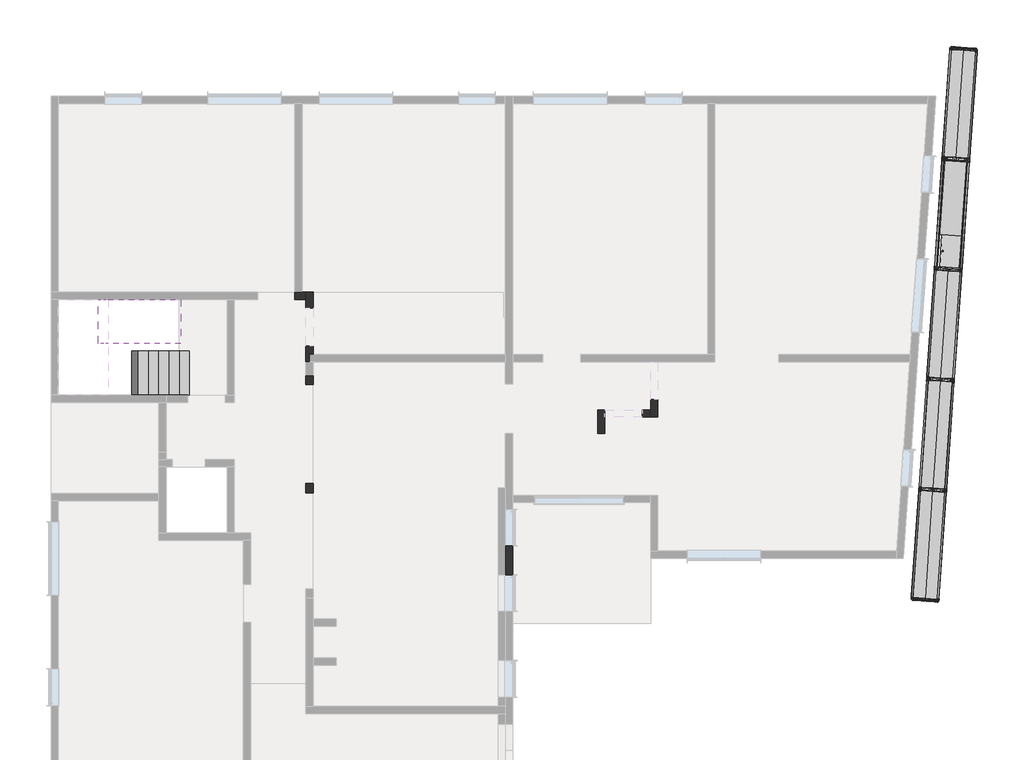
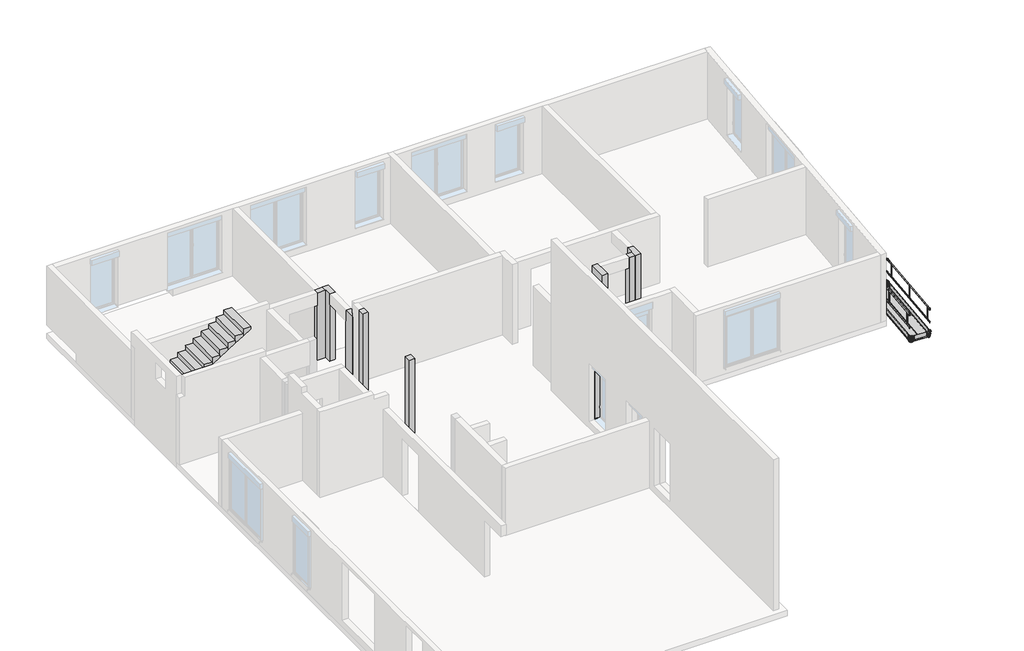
# One storey, part 3 of 3: 55 proxies, 9 columns, 2 stair flights.
"""IFC4 building model written with IfcOpenShell, lengths in millimetres."""

from ifc_helpers import new_model, si_unit, origin, place, context, project, spatial, faceted_brep, transform, mapped, element, save
from components import generic_models_b6224320, generic_models_870fb608, generic_models_6026e95e, generic_models_c9bf4d4e, generic_models_8fe25d63, proxy_03_lisse_70_0da8a22d, proxy_04_lisse_3_m_913477d2

model = new_model("IFC4")

# Units and contexts
model_context = context("Model", 3, world=origin())
ifc_project = project(units=[si_unit("LENGTHUNIT", "METRE", prefix="MILLI")], contexts=[model_context])

# Site, building, storey
site = spatial("IfcSite", under=ifc_project)
building = spatial("IfcBuilding", under=site)
storey = spatial("IfcBuildingStorey", under=building, Name="07-Plateau 7", Elevation=12400.0)

# Proxies
placement = place(None, origin())
generic_models_shape = generic_models_b6224320(model_context)
element("IfcBuildingElementProxy", 1, Name="05-Plateau 3.00 m : JPA Plateau Galva", ObjectType="05-Plateau 3.00 m : JPA Plateau Galva", at=placement, inside=storey, context=model_context, shape_type="MappedRepresentation", body=[
    mapped(generic_models_shape, transform((17696.6144519, 11330.0091436, 12400.0), x_axis=(0.06975647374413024, 0.997564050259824, 0.0), y_axis=(-0.997564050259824, 0.06975647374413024, 0.0), z_axis=(0.0, 0.0, 1.0))),
])
element("IfcBuildingElementProxy", 2, Name="05-Plateau 3.00 m : JPA Plateau Galva", ObjectType="05-Plateau 3.00 m : JPA Plateau Galva", at=placement, inside=storey, context=model_context, shape_type="MappedRepresentation", body=[
    mapped(generic_models_shape, transform((18015.8349479, 11307.687072, 12400.0), x_axis=(0.06975647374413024, 0.997564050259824, 0.0), y_axis=(-0.997564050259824, 0.06975647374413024, 0.0), z_axis=(0.0, 0.0, 1.0))),
])
element("IfcBuildingElementProxy", 3, Name="05-Plateau 3.00 m : JPA Plateau Galva", ObjectType="05-Plateau 3.00 m : JPA Plateau Galva", at=placement, inside=storey, context=model_context, shape_type="MappedRepresentation", body=[
    mapped(generic_models_shape, transform((17487.1106496, 8333.9651875, 12400.0), x_axis=(0.06975647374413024, 0.997564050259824, 0.0), y_axis=(-0.997564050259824, 0.06975647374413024, 0.0), z_axis=(0.0, 0.0, 1.0))),
])
element("IfcBuildingElementProxy", 4, Name="05-Plateau 3.00 m : JPA Plateau Galva", ObjectType="05-Plateau 3.00 m : JPA Plateau Galva", at=placement, inside=storey, context=model_context, shape_type="MappedRepresentation", body=[
    mapped(generic_models_shape, transform((17806.3311456, 8311.6431159, 12400.0), x_axis=(0.06975647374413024, 0.997564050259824, 0.0), y_axis=(-0.997564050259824, 0.06975647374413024, 0.0), z_axis=(0.0, 0.0, 1.0))),
])
element("IfcBuildingElementProxy", 5, Name="05-Plateau 3.00 m : JPA Plateau Galva", ObjectType="05-Plateau 3.00 m : JPA Plateau Galva", at=placement, inside=storey, context=model_context, shape_type="MappedRepresentation", body=[
    mapped(generic_models_shape, transform((17277.6068473, 5337.9212313, 12400.0), x_axis=(0.06975647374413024, 0.997564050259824, 0.0), y_axis=(-0.997564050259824, 0.06975647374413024, 0.0), z_axis=(0.0, 0.0, 1.0))),
])
element("IfcBuildingElementProxy", 6, Name="05-Plateau 3.00 m : JPA Plateau Galva", ObjectType="05-Plateau 3.00 m : JPA Plateau Galva", at=placement, inside=storey, context=model_context, shape_type="MappedRepresentation", body=[
    mapped(generic_models_shape, transform((17596.8273433, 5315.5991597, 12400.0), x_axis=(0.06975647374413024, 0.997564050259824, 0.0), y_axis=(-0.997564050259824, 0.06975647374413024, 0.0), z_axis=(0.0, 0.0, 1.0))),
])
element("IfcBuildingElementProxy", 7, Name="05-Plateau 3.00 m : JPA Plateau Galva", ObjectType="05-Plateau 3.00 m : JPA Plateau Galva", at=placement, inside=storey, context=model_context, shape_type="MappedRepresentation", body=[
    mapped(generic_models_shape, transform((18115.6220564, 17322.0970558, 12400.0), x_axis=(0.06975647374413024, 0.997564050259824, 0.0), y_axis=(-0.997564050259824, 0.06975647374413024, 0.0), z_axis=(0.0, 0.0, 1.0))),
])
element("IfcBuildingElementProxy", 8, Name="05-Plateau 3.00 m : JPA Plateau Galva", ObjectType="05-Plateau 3.00 m : JPA Plateau Galva", at=placement, inside=storey, context=model_context, shape_type="MappedRepresentation", body=[
    mapped(generic_models_shape, transform((18434.8425525, 17299.7749842, 12400.0), x_axis=(0.06975647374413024, 0.997564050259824, 0.0), y_axis=(-0.997564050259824, 0.06975647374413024, 0.0), z_axis=(0.0, 0.0, 1.0))),
])
generic_models_2_shape = generic_models_870fb608(model_context)
element("IfcBuildingElementProxy", 9, Name="07-Plancher trappe : JPA Plancher trappe", ObjectType="07-Plancher trappe : JPA Plancher trappe", at=placement, inside=storey, context=model_context, shape_type="MappedRepresentation", body=[
    mapped(generic_models_2_shape, transform((18603.7155246, 14267.2479276, 12400.0), x_axis=(0.06975647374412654, 0.9975640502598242, 0.0), y_axis=(-0.9975640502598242, 0.06975647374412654, 0.0), z_axis=(0.0, 0.0, 1.0))),
])
generic_models_3_shape = generic_models_6026e95e(model_context)
element("IfcBuildingElementProxy", 10, Name="11-Plinthe 0.70 : JPA Plinthe 0.70", ObjectType="11-Plinthe 0.70 : JPA Plinthe 0.70", at=placement, inside=storey, context=model_context, shape_type="MappedRepresentation", body=[
    mapped(generic_models_3_shape, transform((17293.9283677, 5332.6495195, 12400.0), x_axis=(0.9970739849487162, -0.07644258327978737, 0.0), y_axis=(0.07644258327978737, 0.9970739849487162, 0.0), z_axis=(0.0, 0.0, 1.0))),
])
element("IfcBuildingElementProxy", 11, Name="11-Plinthe 0.70 : JPA Plinthe 0.70", ObjectType="11-Plinthe 0.70 : JPA Plinthe 0.70", at=placement, inside=storey, context=model_context, shape_type="MappedRepresentation", body=[
    mapped(generic_models_3_shape, transform((18342.1895888, 20323.4833915, 12400.0), x_axis=(0.9970739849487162, -0.07644258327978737, 0.0), y_axis=(0.07644258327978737, 0.9970739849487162, 0.0), z_axis=(0.0, 0.0, 1.0))),
])
generic_models_4_shape = generic_models_c9bf4d4e(model_context)
element("IfcBuildingElementProxy", 12, Name="12-Plinthe 3 m : JPA Plinthe 3 m", ObjectType="12-Plinthe 3 m : JPA Plinthe 3 m", at=placement, inside=storey, context=model_context, shape_type="MappedRepresentation", body=[
    mapped(generic_models_4_shape, transform((17696.788843, 11332.5030537, 12400.0), x_axis=(0.06975647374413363, 0.9975640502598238, 0.0), y_axis=(-0.9975640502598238, 0.06975647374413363, 0.0), z_axis=(0.0, 0.0, 1.0))),
])
element("IfcBuildingElementProxy", 13, Name="12-Plinthe 3 m : JPA Plinthe 3 m", ObjectType="12-Plinthe 3 m : JPA Plinthe 3 m", at=placement, inside=storey, context=model_context, shape_type="MappedRepresentation", body=[
    mapped(generic_models_4_shape, transform((18395.0836782, 11283.6735221, 12400.0), x_axis=(0.06975647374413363, 0.9975640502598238, 0.0), y_axis=(-0.9975640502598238, 0.06975647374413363, 0.0), z_axis=(0.0, 0.0, 1.0))),
])
element("IfcBuildingElementProxy", 14, Name="12-Plinthe 3 m : JPA Plinthe 3 m", ObjectType="12-Plinthe 3 m : JPA Plinthe 3 m", at=placement, inside=storey, context=model_context, shape_type="MappedRepresentation", body=[
    mapped(generic_models_4_shape, transform((17906.2926453, 14328.5470098, 12400.0), x_axis=(0.06975647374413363, 0.9975640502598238, 0.0), y_axis=(-0.9975640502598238, 0.06975647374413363, 0.0), z_axis=(0.0, 0.0, 1.0))),
])
element("IfcBuildingElementProxy", 15, Name="12-Plinthe 3 m : JPA Plinthe 3 m", ObjectType="12-Plinthe 3 m : JPA Plinthe 3 m", at=placement, inside=storey, context=model_context, shape_type="MappedRepresentation", body=[
    mapped(generic_models_4_shape, transform((18604.5874805, 14279.7174782, 12400.0), x_axis=(0.06975647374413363, 0.9975640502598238, 0.0), y_axis=(-0.9975640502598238, 0.06975647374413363, 0.0), z_axis=(0.0, 0.0, 1.0))),
])
element("IfcBuildingElementProxy", 16, Name="12-Plinthe 3 m : JPA Plinthe 3 m", ObjectType="12-Plinthe 3 m : JPA Plinthe 3 m", at=placement, inside=storey, context=model_context, shape_type="MappedRepresentation", body=[
    mapped(generic_models_4_shape, transform((18115.7964476, 17324.590966, 12400.0), x_axis=(0.06975647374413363, 0.9975640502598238, 0.0), y_axis=(-0.9975640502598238, 0.06975647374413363, 0.0), z_axis=(0.0, 0.0, 1.0))),
])
element("IfcBuildingElementProxy", 17, Name="12-Plinthe 3 m : JPA Plinthe 3 m", ObjectType="12-Plinthe 3 m : JPA Plinthe 3 m", at=placement, inside=storey, context=model_context, shape_type="MappedRepresentation", body=[
    mapped(generic_models_4_shape, transform((18814.0912828, 17275.7614343, 12400.0), x_axis=(0.06975647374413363, 0.9975640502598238, 0.0), y_axis=(-0.9975640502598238, 0.06975647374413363, 0.0), z_axis=(0.0, 0.0, 1.0))),
])
element("IfcBuildingElementProxy", 18, Name="12-Plinthe 3 m : JPA Plinthe 3 m", ObjectType="12-Plinthe 3 m : JPA Plinthe 3 m", at=placement, inside=storey, context=model_context, shape_type="MappedRepresentation", body=[
    mapped(generic_models_4_shape, transform((17487.2850407, 8336.4590976, 12400.0), x_axis=(0.06975647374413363, 0.9975640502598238, 0.0), y_axis=(-0.9975640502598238, 0.06975647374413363, 0.0), z_axis=(0.0, 0.0, 1.0))),
])
element("IfcBuildingElementProxy", 19, Name="12-Plinthe 3 m : JPA Plinthe 3 m", ObjectType="12-Plinthe 3 m : JPA Plinthe 3 m", at=placement, inside=storey, context=model_context, shape_type="MappedRepresentation", body=[
    mapped(generic_models_4_shape, transform((18185.5798759, 8287.629566, 12400.0), x_axis=(0.06975647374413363, 0.9975640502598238, 0.0), y_axis=(-0.9975640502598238, 0.06975647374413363, 0.0), z_axis=(0.0, 0.0, 1.0))),
])
element("IfcBuildingElementProxy", 20, Name="12-Plinthe 3 m : JPA Plinthe 3 m", ObjectType="12-Plinthe 3 m : JPA Plinthe 3 m", at=placement, inside=storey, context=model_context, shape_type="MappedRepresentation", body=[
    mapped(generic_models_4_shape, transform((17277.7812384, 5340.4151415, 12400.0), x_axis=(0.06975647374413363, 0.9975640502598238, 0.0), y_axis=(-0.9975640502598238, 0.06975647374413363, 0.0), z_axis=(0.0, 0.0, 1.0))),
])
element("IfcBuildingElementProxy", 21, Name="12-Plinthe 3 m : JPA Plinthe 3 m", ObjectType="12-Plinthe 3 m : JPA Plinthe 3 m", at=placement, inside=storey, context=model_context, shape_type="MappedRepresentation", body=[
    mapped(generic_models_4_shape, transform((17976.0760736, 5291.5856098, 12400.0), x_axis=(0.06975647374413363, 0.9975640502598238, 0.0), y_axis=(-0.9975640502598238, 0.06975647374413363, 0.0), z_axis=(0.0, 0.0, 1.0))),
])
generic_models_5_shape = generic_models_8fe25d63(model_context)
element("IfcBuildingElementProxy", 22, Name="14-Garde corps 300 : JPA Garde corps 300", ObjectType="14-Garde corps 300 : JPA Garde corps 300", at=placement, inside=storey, context=model_context, shape_type="MappedRepresentation", body=[
    mapped(generic_models_5_shape, transform((17696.7673576, 11331.7493383, 12400.0), x_axis=(0.06975647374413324, 0.9975640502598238, 0.0), y_axis=(-0.9975640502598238, 0.06975647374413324, 0.0), z_axis=(0.0, 0.0, 1.0))),
])
element("IfcBuildingElementProxy", 23, Name="14-Garde corps 300 : JPA Garde corps 300", ObjectType="14-Garde corps 300 : JPA Garde corps 300", at=placement, inside=storey, context=model_context, shape_type="MappedRepresentation", body=[
    mapped(generic_models_5_shape, transform((17906.2711598, 14327.7932944, 12400.0), x_axis=(0.06975647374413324, 0.9975640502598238, 0.0), y_axis=(-0.9975640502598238, 0.06975647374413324, 0.0), z_axis=(0.0, 0.0, 1.0))),
])
element("IfcBuildingElementProxy", 24, Name="14-Garde corps 300 : JPA Garde corps 300", ObjectType="14-Garde corps 300 : JPA Garde corps 300", at=placement, inside=storey, context=model_context, shape_type="MappedRepresentation", body=[
    mapped(generic_models_5_shape, transform((18115.7749621, 17323.8372506, 12400.0), x_axis=(0.06975647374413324, 0.9975640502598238, 0.0), y_axis=(-0.9975640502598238, 0.06975647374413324, 0.0), z_axis=(0.0, 0.0, 1.0))),
])
element("IfcBuildingElementProxy", 25, Name="14-Garde corps 300 : JPA Garde corps 300", ObjectType="14-Garde corps 300 : JPA Garde corps 300", at=placement, inside=storey, context=model_context, shape_type="MappedRepresentation", body=[
    mapped(generic_models_5_shape, transform((17487.2635553, 8335.7053822, 12400.0), x_axis=(0.06975647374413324, 0.9975640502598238, 0.0), y_axis=(-0.9975640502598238, 0.06975647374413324, 0.0), z_axis=(0.0, 0.0, 1.0))),
])
element("IfcBuildingElementProxy", 26, Name="14-Garde corps 300 : JPA Garde corps 300", ObjectType="14-Garde corps 300 : JPA Garde corps 300", at=placement, inside=storey, context=model_context, shape_type="MappedRepresentation", body=[
    mapped(generic_models_5_shape, transform((18814.2002275, 17273.8372506, 12400.0), x_axis=(0.06975647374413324, 0.9975640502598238, 0.0), y_axis=(-0.9975640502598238, 0.06975647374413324, 0.0), z_axis=(0.0, 0.0, 1.0))),
])
element("IfcBuildingElementProxy", 27, Name="14-Garde corps 300 : JPA Garde corps 300", ObjectType="14-Garde corps 300 : JPA Garde corps 300", at=placement, inside=storey, context=model_context, shape_type="MappedRepresentation", body=[
    mapped(generic_models_5_shape, transform((18604.2002275, 14273.8372506, 12400.0), x_axis=(0.06975647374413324, 0.9975640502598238, 0.0), y_axis=(-0.9975640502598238, 0.06975647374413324, 0.0), z_axis=(0.0, 0.0, 1.0))),
])
element("IfcBuildingElementProxy", 28, Name="14-Garde corps 300 : JPA Garde corps 300", ObjectType="14-Garde corps 300 : JPA Garde corps 300", at=placement, inside=storey, context=model_context, shape_type="MappedRepresentation", body=[
    mapped(generic_models_5_shape, transform((18394.9308063, 11281.1450998, 12400.0), x_axis=(0.06975647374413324, 0.9975640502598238, 0.0), y_axis=(-0.9975640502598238, 0.06975647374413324, 0.0), z_axis=(0.0, 0.0, 1.0))),
])
element("IfcBuildingElementProxy", 29, Name="14-Garde corps 300 : JPA Garde corps 300", ObjectType="14-Garde corps 300 : JPA Garde corps 300", at=placement, inside=storey, context=model_context, shape_type="MappedRepresentation", body=[
    mapped(generic_models_5_shape, transform((18185.427004, 8285.1011437, 12400.0), x_axis=(0.06975647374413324, 0.9975640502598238, 0.0), y_axis=(-0.9975640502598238, 0.06975647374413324, 0.0), z_axis=(0.0, 0.0, 1.0))),
])
element("IfcBuildingElementProxy", 30, Name="14-Garde corps 300 : JPA Garde corps 300", ObjectType="14-Garde corps 300 : JPA Garde corps 300", at=placement, inside=storey, context=model_context, shape_type="MappedRepresentation", body=[
    mapped(generic_models_5_shape, transform((17277.759753, 5339.6614261, 12400.0), x_axis=(0.06975647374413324, 0.9975640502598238, 0.0), y_axis=(-0.9975640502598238, 0.06975647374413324, 0.0), z_axis=(0.0, 0.0, 1.0))),
])
element("IfcBuildingElementProxy", 31, Name="14-Garde corps 300 : JPA Garde corps 300", ObjectType="14-Garde corps 300 : JPA Garde corps 300", at=placement, inside=storey, context=model_context, shape_type="MappedRepresentation", body=[
    mapped(generic_models_5_shape, transform((17975.9232017, 5289.0571875, 12400.0), x_axis=(0.06975647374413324, 0.9975640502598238, 0.0), y_axis=(-0.9975640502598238, 0.06975647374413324, 0.0), z_axis=(0.0, 0.0, 1.0))),
])
proxy_03_lisse_70_shape = proxy_03_lisse_70_0da8a22d(model_context)
element("IfcBuildingElementProxy", 32, Name="03-Lisse 70 : JPA Lisse Galva", ObjectType="03-Lisse 70 : JPA Lisse Galva", at=placement, inside=storey, context=model_context, shape_type="MappedRepresentation", body=[
    mapped(proxy_03_lisse_70_shape, transform((17687.6637048, 11325.7592688, 12400.0), x_axis=(0.9975640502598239, -0.06975647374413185, 0.0), y_axis=(0.06975647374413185, 0.9975640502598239, 0.0), z_axis=(0.0, 0.0, 1.0))),
])
element("IfcBuildingElementProxy", 33, Name="03-Lisse 70 : JPA Lisse Galva", ObjectType="03-Lisse 70 : JPA Lisse Galva", at=placement, inside=storey, context=model_context, shape_type="MappedRepresentation", body=[
    mapped(proxy_03_lisse_70_shape, transform((17897.1675071, 14321.8032249, 12400.0), x_axis=(0.9975640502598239, -0.06975647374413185, 0.0), y_axis=(0.06975647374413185, 0.9975640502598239, 0.0), z_axis=(0.0, 0.0, 1.0))),
])
element("IfcBuildingElementProxy", 34, Name="03-Lisse 70 : JPA Lisse Galva", ObjectType="03-Lisse 70 : JPA Lisse Galva", at=placement, inside=storey, context=model_context, shape_type="MappedRepresentation", body=[
    mapped(proxy_03_lisse_70_shape, transform((18106.6713094, 17317.847181, 12400.0), x_axis=(0.9975640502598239, -0.06975647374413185, 0.0), y_axis=(0.06975647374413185, 0.9975640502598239, 0.0), z_axis=(0.0, 0.0, 1.0))),
])
element("IfcBuildingElementProxy", 35, Name="03-Lisse 70 : JPA Lisse Galva", ObjectType="03-Lisse 70 : JPA Lisse Galva", at=placement, inside=storey, context=model_context, shape_type="MappedRepresentation", body=[
    mapped(proxy_03_lisse_70_shape, transform((18311.1751117, 20323.8911372, 12400.0), x_axis=(0.9975640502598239, -0.06975647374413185, 0.0), y_axis=(0.06975647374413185, 0.9975640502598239, 0.0), z_axis=(0.0, 0.0, 1.0))),
])
element("IfcBuildingElementProxy", 36, Name="03-Lisse 70 : JPA Lisse Galva", ObjectType="03-Lisse 70 : JPA Lisse Galva", at=placement, inside=storey, context=model_context, shape_type="MappedRepresentation", body=[
    mapped(proxy_03_lisse_70_shape, transform((17478.1599025, 8329.7153127, 12400.0), x_axis=(0.9975640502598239, -0.06975647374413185, 0.0), y_axis=(0.06975647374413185, 0.9975640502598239, 0.0), z_axis=(0.0, 0.0, 1.0))),
])
element("IfcBuildingElementProxy", 37, Name="03-Lisse 70 : JPA Lisse Galva", ObjectType="03-Lisse 70 : JPA Lisse Galva", at=placement, inside=storey, context=model_context, shape_type="MappedRepresentation", body=[
    mapped(proxy_03_lisse_70_shape, transform((17478.1599025, 8329.7153127, 12400.0), x_axis=(0.9975640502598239, -0.06975647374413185, 0.0), y_axis=(0.06975647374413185, 0.9975640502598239, 0.0), z_axis=(0.0, 0.0, 1.0))),
])
element("IfcBuildingElementProxy", 38, Name="03-Lisse 70 : JPA Lisse Galva", ObjectType="03-Lisse 70 : JPA Lisse Galva", at=placement, inside=storey, context=model_context, shape_type="MappedRepresentation", body=[
    mapped(proxy_03_lisse_70_shape, transform((17268.6561002, 5333.6713565, 12400.0), x_axis=(0.9975640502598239, -0.06975647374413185, 0.0), y_axis=(0.06975647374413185, 0.9975640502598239, 0.0), z_axis=(0.0, 0.0, 1.0))),
])
proxy_04_lisse_3_m_shape = proxy_04_lisse_3_m_913477d2(model_context)
element("IfcBuildingElementProxy", 39, Name="04-Lisse 3 m : JPA Lisse Galva", ObjectType="04-Lisse 3 m : JPA Lisse Galva", at=placement, inside=storey, context=model_context, shape_type="MappedRepresentation", body=[
    mapped(proxy_04_lisse_3_m_shape, transform((18185.5798759, 8287.629566, 12400.0), x_axis=(0.06975647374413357, 0.9975640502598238, 0.0), y_axis=(-0.9975640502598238, 0.06975647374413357, 0.0), z_axis=(0.0, 0.0, 1.0))),
])
element("IfcBuildingElementProxy", 40, Name="04-Lisse 3 m : JPA Lisse Galva", ObjectType="04-Lisse 3 m : JPA Lisse Galva", at=placement, inside=storey, context=model_context, shape_type="MappedRepresentation", body=[
    mapped(proxy_04_lisse_3_m_shape, transform((18394.2117223, 11271.2039715, 12400.0), x_axis=(0.06975647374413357, 0.9975640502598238, 0.0), y_axis=(-0.9975640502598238, 0.06975647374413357, 0.0), z_axis=(0.0, 0.0, 1.0))),
])
element("IfcBuildingElementProxy", 41, Name="04-Lisse 3 m : JPA Lisse Galva", ObjectType="04-Lisse 3 m : JPA Lisse Galva", at=placement, inside=storey, context=model_context, shape_type="MappedRepresentation", body=[
    mapped(proxy_04_lisse_3_m_shape, transform((18604.1764114, 14273.838916, 12400.0), x_axis=(0.06975647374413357, 0.9975640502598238, 0.0), y_axis=(-0.9975640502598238, 0.06975647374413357, 0.0), z_axis=(0.0, 0.0, 1.0))),
])
element("IfcBuildingElementProxy", 42, Name="04-Lisse 3 m : JPA Lisse Galva", ObjectType="04-Lisse 3 m : JPA Lisse Galva", at=placement, inside=storey, context=model_context, shape_type="MappedRepresentation", body=[
    mapped(proxy_04_lisse_3_m_shape, transform((18813.5502996, 17268.0250134, 12400.0), x_axis=(0.06975647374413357, 0.9975640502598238, 0.0), y_axis=(-0.9975640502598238, 0.06975647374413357, 0.0), z_axis=(0.0, 0.0, 1.0))),
])
element("IfcBuildingElementProxy", 43, Name="04-Lisse 3 m : JPA Lisse Galva", ObjectType="04-Lisse 3 m : JPA Lisse Galva", at=placement, inside=storey, context=model_context, shape_type="MappedRepresentation", body=[
    mapped(proxy_04_lisse_3_m_shape, transform((17976.0760736, 5291.5856098, 12400.0), x_axis=(0.06975647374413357, 0.9975640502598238, 0.0), y_axis=(-0.9975640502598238, 0.06975647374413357, 0.0), z_axis=(0.0, 0.0, 1.0))),
])
element("IfcBuildingElementProxy", 44, Name="04-Lisse 3 m : JPA Lisse Galva", ObjectType="04-Lisse 3 m : JPA Lisse Galva", at=placement, inside=storey, context=model_context, shape_type="MappedRepresentation", body=[
    mapped(proxy_04_lisse_3_m_shape, transform((17487.2850407, 8336.4590976, 12400.0), x_axis=(0.06975647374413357, 0.9975640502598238, 0.0), y_axis=(-0.9975640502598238, 0.06975647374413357, 0.0), z_axis=(0.0, 0.0, 1.0))),
])
element("IfcBuildingElementProxy", 45, Name="04-Lisse 3 m : JPA Lisse Galva", ObjectType="04-Lisse 3 m : JPA Lisse Galva", at=placement, inside=storey, context=model_context, shape_type="MappedRepresentation", body=[
    mapped(proxy_04_lisse_3_m_shape, transform((17695.9168871, 11320.0335031, 12400.0), x_axis=(0.06975647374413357, 0.9975640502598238, 0.0), y_axis=(-0.9975640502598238, 0.06975647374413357, 0.0), z_axis=(0.0, 0.0, 1.0))),
])
element("IfcBuildingElementProxy", 46, Name="04-Lisse 3 m : JPA Lisse Galva", ObjectType="04-Lisse 3 m : JPA Lisse Galva", at=placement, inside=storey, context=model_context, shape_type="MappedRepresentation", body=[
    mapped(proxy_04_lisse_3_m_shape, transform((17905.8815762, 14322.6684476, 12400.0), x_axis=(0.06975647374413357, 0.9975640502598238, 0.0), y_axis=(-0.9975640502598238, 0.06975647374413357, 0.0), z_axis=(0.0, 0.0, 1.0))),
])
element("IfcBuildingElementProxy", 47, Name="04-Lisse 3 m : JPA Lisse Galva", ObjectType="04-Lisse 3 m : JPA Lisse Galva", at=placement, inside=storey, context=model_context, shape_type="MappedRepresentation", body=[
    mapped(proxy_04_lisse_3_m_shape, transform((18115.2554644, 17316.8545451, 12400.0), x_axis=(0.06975647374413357, 0.9975640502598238, 0.0), y_axis=(-0.9975640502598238, 0.06975647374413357, 0.0), z_axis=(0.0, 0.0, 1.0))),
])
element("IfcBuildingElementProxy", 48, Name="04-Lisse 3 m : JPA Lisse Galva", ObjectType="04-Lisse 3 m : JPA Lisse Galva", at=placement, inside=storey, context=model_context, shape_type="MappedRepresentation", body=[
    mapped(proxy_04_lisse_3_m_shape, transform((17277.7812384, 5340.4151415, 12400.0), x_axis=(0.06975647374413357, 0.9975640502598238, 0.0), y_axis=(-0.9975640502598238, 0.06975647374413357, 0.0), z_axis=(0.0, 0.0, 1.0))),
])
element("IfcBuildingElementProxy", 49, Name="04-Lisse 3 m : JPA Lisse Galva", ObjectType="04-Lisse 3 m : JPA Lisse Galva", at=placement, inside=storey, context=model_context, shape_type="MappedRepresentation", body=[
    mapped(proxy_04_lisse_3_m_shape, transform((17500.8765554, 8353.1677495, 12400.0), x_axis=(0.06975647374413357, 0.9975640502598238, 0.0), y_axis=(-0.9975640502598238, 0.06975647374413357, 0.0), z_axis=(0.0, 0.0, 1.0))),
])
element("IfcBuildingElementProxy", 50, Name="04-Lisse 3 m : JPA Lisse Galva", ObjectType="04-Lisse 3 m : JPA Lisse Galva", at=placement, inside=storey, context=model_context, shape_type="MappedRepresentation", body=[
    mapped(proxy_04_lisse_3_m_shape, transform((17709.5084018, 11336.742155, 12400.0), x_axis=(0.06975647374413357, 0.9975640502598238, 0.0), y_axis=(-0.9975640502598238, 0.06975647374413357, 0.0), z_axis=(0.0, 0.0, 1.0))),
])
element("IfcBuildingElementProxy", 51, Name="04-Lisse 3 m : JPA Lisse Galva", ObjectType="04-Lisse 3 m : JPA Lisse Galva", at=placement, inside=storey, context=model_context, shape_type="MappedRepresentation", body=[
    mapped(proxy_04_lisse_3_m_shape, transform((17919.4730909, 14339.3770995, 12400.0), x_axis=(0.06975647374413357, 0.9975640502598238, 0.0), y_axis=(-0.9975640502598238, 0.06975647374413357, 0.0), z_axis=(0.0, 0.0, 1.0))),
])
element("IfcBuildingElementProxy", 52, Name="04-Lisse 3 m : JPA Lisse Galva", ObjectType="04-Lisse 3 m : JPA Lisse Galva", at=placement, inside=storey, context=model_context, shape_type="MappedRepresentation", body=[
    mapped(proxy_04_lisse_3_m_shape, transform((18128.846979, 17333.563197, 12400.0), x_axis=(0.06975647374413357, 0.9975640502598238, 0.0), y_axis=(-0.9975640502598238, 0.06975647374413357, 0.0), z_axis=(0.0, 0.0, 1.0))),
])
element("IfcBuildingElementProxy", 53, Name="04-Lisse 3 m : JPA Lisse Galva", ObjectType="04-Lisse 3 m : JPA Lisse Galva", at=placement, inside=storey, context=model_context, shape_type="MappedRepresentation", body=[
    mapped(proxy_04_lisse_3_m_shape, transform((17291.3727531, 5357.1237934, 12400.0), x_axis=(0.06975647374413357, 0.9975640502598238, 0.0), y_axis=(-0.9975640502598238, 0.06975647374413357, 0.0), z_axis=(0.0, 0.0, 1.0))),
])
element("IfcBuildingElementProxy", 54, Name="04-Lisse 3 m : JPA Lisse Galva", ObjectType="04-Lisse 3 m : JPA Lisse Galva", at=placement, inside=storey, context=model_context, shape_type="MappedRepresentation", body=[
    mapped(proxy_04_lisse_3_m_shape, transform((18604.1764114, 14271.2936372, 11904.432796), x_axis=(0.06975647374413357, 0.9975640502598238, 0.0), y_axis=(-0.9975640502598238, 0.06975647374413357, 0.0), z_axis=(0.0, 0.0, 1.0))),
])
element("IfcBuildingElementProxy", 55, Name="04-Lisse 3 m : JPA Lisse Galva", ObjectType="04-Lisse 3 m : JPA Lisse Galva", at=placement, inside=storey, context=model_context, shape_type="MappedRepresentation", body=[
    mapped(proxy_04_lisse_3_m_shape, transform((17919.4730909, 14336.8318207, 11904.432796), x_axis=(0.06975647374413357, 0.9975640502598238, 0.0), y_axis=(-0.9975640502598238, 0.06975647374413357, 0.0), z_axis=(0.0, 0.0, 1.0))),
])

# Columns
element("IfcColumn", 56, ObjectType="Poteau béton - Rectangulaire : 20x22", at=placement, inside=storey, context=model_context, shape_type="Brep", body=[
    faceted_brep([(10172.9552204, 10279.8622276, 12570.0), (9952.9552204, 10279.8622276, 12570.0), (9952.9552204, 10479.8622276, 12570.0), (10172.9552204, 10479.8622276, 12570.0), (10172.9552204, 10279.8622276, 15150.0), (9952.9552204, 10279.8622276, 15150.0), (9952.9552204, 10279.8622276, 14740.0), (9952.9552204, 10479.8622276, 15150.0), (9952.9552204, 10479.8622276, 14740.0), (10172.9552204, 10479.8622276, 15150.0)], [[[0, 1, 2, 3]], [[4, 5, 6, 1, 0]], [[5, 7, 8, 2, 1, 6]], [[7, 9, 3, 2, 8]], [[9, 4, 0, 3]], [[4, 9, 7, 5]]]),
])
element("IfcColumn", 57, ObjectType="Poteau béton - Rectangulaire : 20x25", at=placement, inside=storey, context=model_context, shape_type="Brep", body=[
    faceted_brep([(812.9552204, 8227.4340998, 12570.0), (812.9552204, 8477.4340998, 12570.0), (1012.9552204, 8477.4340998, 12570.0), (1012.9552204, 8227.4340998, 12570.0), (812.9552204, 8227.4340998, 14930.0), (812.9552204, 8227.4340998, 15650.0), (812.9552204, 8477.4340998, 15650.0), (1008.9552204, 8477.4340998, 15650.0), (1008.9552204, 8477.4340998, 15620.0), (1012.9552204, 8477.4340998, 15620.0), (1012.9552204, 8227.4340998, 15620.0), (1012.9552204, 8227.4340998, 14930.0), (1008.9552204, 8227.4340998, 15620.0), (1008.9552204, 8227.4340998, 15650.0)], [[[0, 1, 2, 3]], [[1, 0, 4, 5, 6]], [[2, 1, 6, 7, 8, 9]], [[3, 2, 9, 10, 11]], [[0, 3, 11, 10, 12, 13, 5, 4]], [[6, 5, 13, 7]], [[8, 12, 10, 9]], [[12, 8, 7, 13]]]),
])
element("IfcColumn", 58, ObjectType="Poteau béton - Rectangulaire : 20x25", at=placement, inside=storey, context=model_context, shape_type="Brep", body=[
    faceted_brep([(812.9552204, 11167.4340998, 12570.0), (812.9552204, 11417.4340998, 12570.0), (1012.9552204, 11417.4340998, 12570.0), (1012.9552204, 11167.4340998, 12570.0), (812.9552204, 11167.4340998, 14930.0), (812.9552204, 11167.4340998, 15650.0), (812.9552204, 11417.4340998, 15650.0), (1008.9552204, 11417.4340998, 15650.0), (1008.9552204, 11417.4340998, 15620.0), (1012.9552204, 11417.4340998, 15620.0), (1012.9552204, 11167.4340998, 15620.0), (1012.9552204, 11167.4340998, 14930.0), (1008.9552204, 11167.4340998, 15620.0), (1008.9552204, 11167.4340998, 15650.0)], [[[0, 1, 2, 3]], [[1, 0, 4, 5, 6]], [[2, 1, 6, 7, 8, 9]], [[3, 2, 9, 10, 11]], [[0, 3, 11, 10, 12, 13, 5, 4]], [[6, 5, 13, 7]], [[8, 12, 10, 9]], [[12, 8, 7, 13]]]),
])
element("IfcColumn", 59, ObjectType="Poteau béton - Rectangulaire : 20x30", at=placement, inside=storey, context=model_context, shape_type="Brep", body=[
    faceted_brep([(812.9552204, 13479.8622276, 12570.0), (512.9552204, 13479.8622276, 12570.0), (512.9552204, 13679.8622276, 12570.0), (812.9552204, 13679.8622276, 12570.0), (812.9552204, 13479.8622276, 15150.0), (512.9552204, 13479.8622276, 15150.0), (512.9552204, 13679.8622276, 15150.0), (712.9552204, 13679.8622276, 15150.0), (812.9552204, 13679.8622276, 15150.0)], [[[0, 1, 2, 3]], [[4, 5, 1, 0]], [[5, 6, 2, 1]], [[6, 7, 8, 3, 2]], [[8, 4, 0, 3]], [[4, 8, 7, 6, 5]]]),
])
element("IfcColumn", 60, ObjectType="Poteau béton - Rectangulaire : 20x44", at=placement, inside=storey, context=model_context, shape_type="Brep", body=[
    faceted_brep([(812.9552204, 11779.5762916, 12570.0), (812.9552204, 12219.5762916, 12570.0), (1012.9552204, 12219.5762916, 12570.0), (1012.9552204, 11979.8622276, 12570.0), (912.9552204, 11979.8622276, 12570.0), (912.9552204, 11779.8622276, 12570.0), (1012.9552204, 11779.8622276, 12570.0), (1012.9552204, 11779.5762916, 12570.0), (812.9552204, 11779.5762916, 15140.0), (812.9552204, 11779.5762916, 15150.0), (812.9552204, 11979.5762916, 15150.0), (812.9552204, 12219.5762916, 15150.0), (812.9552204, 12219.5762916, 14740.0), (1012.9552204, 12219.5762916, 15150.0), (1012.9552204, 12219.5762916, 14740.0), (1012.9552204, 11779.5762916, 15150.0), (1012.9552204, 11779.8622276, 15150.0), (912.9552204, 11779.8622276, 15150.0), (912.9552204, 11979.8622276, 15150.0), (1012.9552204, 11979.8622276, 15150.0)], [[[0, 1, 2, 3, 4, 5, 6, 7]], [[1, 0, 8, 9, 10, 11, 12]], [[2, 1, 12, 11, 13, 14]], [[15, 7, 6, 16]], [[0, 7, 15, 9, 8]], [[11, 10, 9, 15, 16, 17, 18, 19, 13]], [[5, 17, 16, 6]], [[18, 4, 3, 19]], [[17, 5, 4, 18]], [[2, 14, 13, 19, 3]]]),
])
element("IfcColumn", 61, ObjectType="Poteau béton - Rectangulaire : 20x44", at=placement, inside=storey, context=model_context, shape_type="Brep", body=[
    faceted_brep([(812.9552204, 13239.5762916, 12570.0), (812.9552204, 13679.5762916, 12570.0), (1012.9552204, 13679.5762916, 12570.0), (1012.9552204, 13239.5762916, 12570.0), (812.9552204, 13239.5762916, 15150.0), (812.9552204, 13679.5762916, 15150.0), (812.9552204, 13239.5762916, 14740.0), (1012.9552204, 13679.5762916, 15150.0), (1012.9552204, 13239.5762916, 15150.0), (1012.9552204, 13239.5762916, 14740.0)], [[[0, 1, 2, 3]], [[4, 5, 1, 0, 6]], [[5, 7, 2, 1]], [[7, 8, 9, 3, 2]], [[8, 4, 6, 0, 3, 9]], [[4, 8, 7, 5]]]),
])
element("IfcColumn", 62, ObjectType="Poteau béton - Rectangulaire : 20x48", at=placement, inside=storey, context=model_context, shape_type="Brep", body=[
    faceted_brep([(10172.9552204, 10279.8622276, 12570.0), (10172.9552204, 10759.8622276, 12570.0), (10372.9552204, 10759.8622276, 12570.0), (10372.9552204, 10279.8622276, 12570.0), (10172.9552204, 10279.8622276, 15150.0), (10172.9552204, 10759.8622276, 15150.0), (10173.5257924, 10759.8622276, 15150.0), (10372.9552204, 10759.8622276, 15150.0), (10372.9552204, 10279.8622276, 15150.0)], [[[0, 1, 2, 3]], [[4, 5, 1, 0]], [[5, 6, 7, 2, 1]], [[7, 8, 3, 2]], [[8, 4, 0, 3]], [[4, 8, 7, 6, 5]]]),
])
element("IfcColumn", 63, ObjectType="Poteau béton - Rectangulaire : 20x64", at=placement, inside=storey, context=model_context, shape_type="Brep", body=[
    faceted_brep([(8732.9552204, 9839.8622276, 12570.0), (8732.9552204, 10479.8622276, 12570.0), (8932.9552204, 10479.8622276, 12570.0), (8932.9552204, 9839.8622276, 12570.0), (8732.9552204, 9839.8622276, 15150.0), (8732.9552204, 10479.8622276, 15150.0), (8932.9552204, 10479.8622276, 15150.0), (8932.9552204, 10479.8622276, 14740.0), (8932.9552204, 10279.8622276, 15150.0), (8932.9552204, 9839.8622276, 15150.0)], [[[0, 1, 2, 3]], [[4, 5, 1, 0]], [[5, 6, 7, 2, 1]], [[6, 8, 9, 3, 2, 7]], [[9, 4, 0, 3]], [[4, 9, 8, 6, 5]]]),
])
element("IfcColumn", 64, ObjectType="Poteau béton - Rectangulaire : 20x78", at=placement, inside=storey, context=model_context, shape_type="Brep", body=[
    faceted_brep([(6432.9552204, 6779.8622276, 12570.0), (6432.9552204, 5999.8622276, 12570.0), (6232.9552204, 5999.8622276, 12570.0), (6232.9552204, 6779.8622276, 12570.0), (6432.9552204, 6779.8622276, 15150.0), (6432.9552204, 5999.8622276, 15150.0), (6432.9552204, 5999.8622276, 15040.0), (6432.9552204, 5999.8622276, 12840.0), (6432.9552204, 6779.8622276, 12840.0), (6432.9552204, 6779.8622276, 15040.0), (6232.9552204, 5999.8622276, 15150.0), (6232.9552204, 5999.8622276, 15040.0), (6232.9552204, 5999.8622276, 12840.0), (6232.9552204, 6779.8622276, 15150.0), (6232.9552204, 6779.8622276, 15040.0), (6232.9552204, 6779.8622276, 12840.0)], [[[0, 1, 2, 3]], [[4, 5, 6, 7, 1, 0, 8, 9]], [[5, 10, 11, 12, 2, 1, 7, 6]], [[10, 13, 14, 15, 3, 2, 12, 11]], [[13, 4, 9, 8, 0, 3, 15, 14]], [[4, 13, 10, 5]]]),
])

# Stair flights
element("IfcStairFlight", 65, ObjectType="Profondeur de structure 80 mm", at=placement, inside=storey, context=model_context, shape_type="Brep", body=[
    faceted_brep([(-2631.2666222, 10879.8622276, 12829.4117647), (-2351.2666222, 10879.8622276, 12829.4117647), (-2351.2666222, 12079.8622276, 12829.4117647), (-2631.2666222, 12079.8622276, 12829.4117647), (-2631.2666222, 10879.8622276, 12732.8264671), (-2494.0448883, 10879.8622276, 12640.0), (-2351.2666222, 10879.8622276, 12640.0), (-2351.2666222, 12079.8622276, 12640.0), (-2494.0448883, 12079.8622276, 12640.0), (-2631.2666222, 12079.8622276, 12732.8264671), (-2911.2666222, 10879.8622276, 13018.8235294), (-2631.2666222, 10879.8622276, 13018.8235294), (-2631.2666222, 12079.8622276, 13018.8235294), (-2911.2666222, 12079.8622276, 13018.8235294), (-2911.2666222, 10879.8622276, 12922.2382318), (-2911.2666222, 12079.8622276, 12922.2382318), (-3191.2666222, 10879.8622276, 13208.2352941), (-2911.2666222, 10879.8622276, 13208.2352941), (-2911.2666222, 12079.8622276, 13208.2352941), (-3191.2666222, 12079.8622276, 13208.2352941), (-3191.2666222, 10879.8622276, 13111.6499965), (-3191.2666222, 12079.8622276, 13111.6499965), (-3471.2666222, 10879.8622276, 13397.6470588), (-3191.2666222, 10879.8622276, 13397.6470588), (-3191.2666222, 12079.8622276, 13397.6470588), (-3471.2666222, 12079.8622276, 13397.6470588), (-3471.2666222, 10879.8622276, 13301.0617612), (-3471.2666222, 12079.8622276, 13301.0617612), (-3751.2666222, 10879.8622276, 13587.0588235), (-3471.2666222, 10879.8622276, 13587.0588235), (-3471.2666222, 12079.8622276, 13587.0588235), (-3751.2666222, 12079.8622276, 13587.0588235), (-3751.2666222, 10879.8622276, 13490.4735259), (-3751.2666222, 12079.8622276, 13490.4735259), (-4031.2666222, 10879.8622276, 13776.4705882), (-3751.2666222, 10879.8622276, 13776.4705882), (-3751.2666222, 12079.8622276, 13776.4705882), (-4031.2666222, 12079.8622276, 13776.4705882), (-4031.2666222, 10879.8622276, 13679.8852906), (-4031.2666222, 12079.8622276, 13679.8852906), (-4311.2666222, 10879.8622276, 13965.8823529), (-4031.2666222, 10879.8622276, 13965.8823529), (-4031.2666222, 12079.8622276, 13965.8823529), (-4311.2666222, 12079.8622276, 13965.8823529), (-4311.2666222, 10879.8622276, 13869.2970553), (-4311.2666222, 12079.8622276, 13869.2970553), (-4591.2666222, 10879.8622276, 14155.2941176), (-4311.2666222, 10879.8622276, 14155.2941176), (-4311.2666222, 12079.8622276, 14155.2941176), (-4591.2666222, 12079.8622276, 14155.2941176), (-4591.2666222, 10879.8622276, 14058.70882), (-4591.2666222, 12079.8622276, 14058.70882)], [[[0, 1, 2, 3]], [[1, 0, 4, 5, 6]], [[2, 1, 6, 7]], [[3, 2, 7, 8, 9]], [[10, 11, 12, 13]], [[11, 10, 14, 4, 0]], [[0, 3, 12, 11]], [[13, 12, 3, 9, 15]], [[16, 17, 18, 19]], [[17, 16, 20, 14, 10]], [[10, 13, 18, 17]], [[19, 18, 13, 15, 21]], [[22, 23, 24, 25]], [[23, 22, 26, 20, 16]], [[16, 19, 24, 23]], [[25, 24, 19, 21, 27]], [[28, 29, 30, 31]], [[29, 28, 32, 26, 22]], [[22, 25, 30, 29]], [[31, 30, 25, 27, 33]], [[34, 35, 36, 37]], [[35, 34, 38, 32, 28]], [[28, 31, 36, 35]], [[37, 36, 31, 33, 39]], [[40, 41, 42, 43]], [[41, 40, 44, 38, 34]], [[34, 37, 42, 41]], [[43, 42, 37, 39, 45]], [[46, 47, 48, 49]], [[47, 46, 50, 44, 40]], [[40, 43, 48, 47]], [[49, 48, 43, 45, 51]], [[46, 49, 51, 50]], [[7, 6, 5, 8]], [[8, 5, 4, 14, 20, 26, 32, 38, 44, 50, 51, 45, 39, 33, 27, 21, 15, 9]]]),
])
element("IfcStairFlight", 66, ObjectType="Profondeur de structure 80 mm", at=placement, inside=storey, context=model_context, shape_type="Brep", body=[
    faceted_brep([(-4550.4151884, 13479.8622276, 14464.4444444), (-4830.4151884, 13479.8622276, 14464.4444444), (-4830.4151884, 12279.8622276, 14464.4444444), (-4550.4151884, 12279.8622276, 14464.4444444), (-4550.4151884, 13479.8622276, 14370.1886638), (-4679.1256552, 13479.8622276, 14290.0), (-4830.4151884, 13479.8622276, 14290.0), (-4830.4151884, 12279.8622276, 14290.0), (-4679.1256552, 12279.8622276, 14290.0), (-4550.4151884, 12279.8622276, 14370.1886638), (-4270.4151884, 13479.8622276, 14638.8888889), (-4550.4151884, 13479.8622276, 14638.8888889), (-4550.4151884, 12279.8622276, 14638.8888889), (-4270.4151884, 12279.8622276, 14638.8888889), (-4270.4151884, 13479.8622276, 14544.6331083), (-4270.4151884, 12279.8622276, 14544.6331083), (-3990.4151884, 13479.8622276, 14813.3333333), (-4270.4151884, 13479.8622276, 14813.3333333), (-4270.4151884, 12279.8622276, 14813.3333333), (-3990.4151884, 12279.8622276, 14813.3333333), (-3990.4151884, 13479.8622276, 14719.0775527), (-3990.4151884, 12279.8622276, 14719.0775527), (-3710.4151884, 13479.8622276, 14987.7777778), (-3990.4151884, 13479.8622276, 14987.7777778), (-3990.4151884, 12279.8622276, 14987.7777778), (-3710.4151884, 12279.8622276, 14987.7777778), (-3710.4151884, 13479.8622276, 14893.5219972), (-3710.4151884, 12279.8622276, 14893.5219972), (-3430.4151884, 13479.8622276, 15162.2222222), (-3710.4151884, 13479.8622276, 15162.2222222), (-3710.4151884, 12279.8622276, 15162.2222222), (-3430.4151884, 12279.8622276, 15162.2222222), (-3430.4151884, 13479.8622276, 15067.9664416), (-3430.4151884, 12279.8622276, 15067.9664416), (-3150.4151884, 13479.8622276, 15336.6666667), (-3430.4151884, 13479.8622276, 15336.6666667), (-3430.4151884, 12279.8622276, 15336.6666667), (-3150.4151884, 12279.8622276, 15336.6666667), (-3150.4151884, 13479.8622276, 15242.4108861), (-3150.4151884, 12279.8622276, 15242.4108861), (-2870.4151884, 13479.8622276, 15511.1111111), (-3150.4151884, 13479.8622276, 15511.1111111), (-3150.4151884, 12279.8622276, 15511.1111111), (-2870.4151884, 12279.8622276, 15511.1111111), (-2870.4151884, 13479.8622276, 15416.8553305), (-2870.4151884, 12279.8622276, 15416.8553305), (-2590.4151884, 13479.8622276, 15685.5555556), (-2870.4151884, 13479.8622276, 15685.5555556), (-2870.4151884, 12279.8622276, 15685.5555556), (-2590.4151884, 12279.8622276, 15685.5555556), (-2590.4151884, 13479.8622276, 15591.2997749), (-2590.4151884, 12279.8622276, 15591.2997749)], [[[0, 1, 2, 3]], [[1, 0, 4, 5, 6]], [[2, 1, 6, 7]], [[3, 2, 7, 8, 9]], [[10, 11, 12, 13]], [[11, 10, 14, 4, 0]], [[0, 3, 12, 11]], [[13, 12, 3, 9, 15]], [[16, 17, 18, 19]], [[17, 16, 20, 14, 10]], [[10, 13, 18, 17]], [[19, 18, 13, 15, 21]], [[22, 23, 24, 25]], [[23, 22, 26, 20, 16]], [[16, 19, 24, 23]], [[25, 24, 19, 21, 27]], [[28, 29, 30, 31]], [[29, 28, 32, 26, 22]], [[22, 25, 30, 29]], [[31, 30, 25, 27, 33]], [[34, 35, 36, 37]], [[35, 34, 38, 32, 28]], [[28, 31, 36, 35]], [[37, 36, 31, 33, 39]], [[40, 41, 42, 43]], [[41, 40, 44, 38, 34]], [[34, 37, 42, 41]], [[43, 42, 37, 39, 45]], [[46, 47, 48, 49]], [[47, 46, 50, 44, 40]], [[40, 43, 48, 47]], [[49, 48, 43, 45, 51]], [[46, 49, 51, 50]], [[7, 6, 5, 8]], [[8, 5, 4, 14, 20, 26, 32, 38, 44, 50, 51, 45, 39, 33, 27, 21, 15, 9]]]),
])

save(model, "model.ifc")
